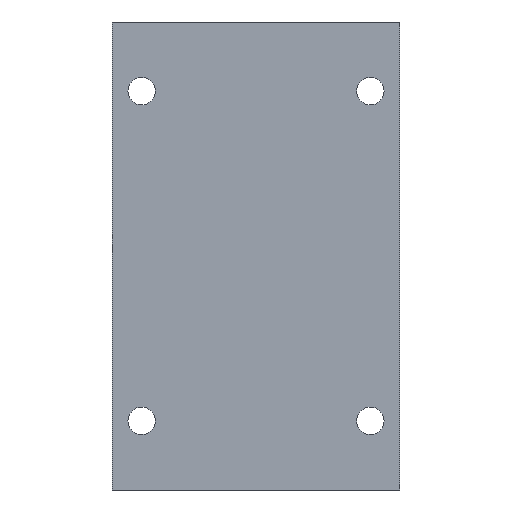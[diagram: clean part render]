
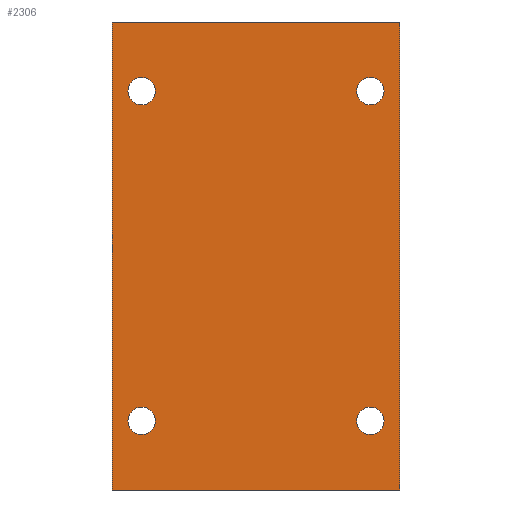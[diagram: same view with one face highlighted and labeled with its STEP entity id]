
A CAD part, front view. The second image highlights one B-rep face of the part: STEP entity #2306.
In plain terms, the highlighted planar face has unit normal (0, -1, 0).
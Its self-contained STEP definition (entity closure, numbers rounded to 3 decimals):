
#15 = VERTEX_POINT ( 'NONE', #2762 ) ;
#20 = LINE ( 'NONE', #2784, #3115 ) ;
#23 = AXIS2_PLACEMENT_3D ( 'NONE', #378, #608, #1875 ) ;
#39 = ORIENTED_EDGE ( 'NONE', *, *, #1694, .F. ) ;
#42 = VERTEX_POINT ( 'NONE', #2830 ) ;
#95 = CARTESIAN_POINT ( 'NONE',  ( 54., -45., 88. ) ) ;
#110 = VERTEX_POINT ( 'NONE', #2814 ) ;
#145 = CIRCLE ( 'NONE', #1785, 5.15 ) ;
#176 = VERTEX_POINT ( 'NONE', #2665 ) ;
#196 = DIRECTION ( 'NONE',  ( 0., -1., 0. ) ) ;
#227 = DIRECTION ( 'NONE',  ( 0., -1., 0. ) ) ;
#235 = PLANE ( 'NONE',  #1997 ) ;
#274 = EDGE_LOOP ( 'NONE', ( #2835, #2504 ) ) ;
#281 = DIRECTION ( 'NONE',  ( 0., 0., -1. ) ) ;
#289 = EDGE_CURVE ( 'NONE', #3130, #1048, #316, .T. ) ;
#293 = FACE_BOUND ( 'NONE', #962, .T. ) ;
#316 = CIRCLE ( 'NONE', #1591, 5.15 ) ;
#319 = EDGE_CURVE ( 'NONE', #2426, #176, #2195, .T. ) ;
#326 = DIRECTION ( 'NONE',  ( 0., 0., -1. ) ) ;
#356 = CIRCLE ( 'NONE', #2320, 5.15 ) ;
#378 = CARTESIAN_POINT ( 'NONE',  ( 43., -45., 62. ) ) ;
#417 = VECTOR ( 'NONE', #1962, 1000. ) ;
#502 = VERTEX_POINT ( 'NONE', #1069 ) ;
#540 = ORIENTED_EDGE ( 'NONE', *, *, #2673, .T. ) ;
#564 = CIRCLE ( 'NONE', #23, 5.15 ) ;
#576 = CARTESIAN_POINT ( 'NONE',  ( 43., -45., -62. ) ) ;
#608 = DIRECTION ( 'NONE',  ( 0., -1., 0. ) ) ;
#666 = DIRECTION ( 'NONE',  ( 0., 0., -1. ) ) ;
#674 = ORIENTED_EDGE ( 'NONE', *, *, #3265, .F. ) ;
#679 = DIRECTION ( 'NONE',  ( 0., 0., -1. ) ) ;
#697 = DIRECTION ( 'NONE',  ( 0., 0., -1. ) ) ;
#930 = CIRCLE ( 'NONE', #1574, 5.15 ) ;
#939 = CARTESIAN_POINT ( 'NONE',  ( 43., -45., 62. ) ) ;
#962 = EDGE_LOOP ( 'NONE', ( #674, #39 ) ) ;
#977 = CARTESIAN_POINT ( 'NONE',  ( -54., -45., -88. ) ) ;
#989 = ORIENTED_EDGE ( 'NONE', *, *, #1917, .F. ) ;
#990 = DIRECTION ( 'NONE',  ( 0., 1., 0. ) ) ;
#1048 = VERTEX_POINT ( 'NONE', #2296 ) ;
#1069 = CARTESIAN_POINT ( 'NONE',  ( -54., -45., 88. ) ) ;
#1077 = VERTEX_POINT ( 'NONE', #1783 ) ;
#1151 = CIRCLE ( 'NONE', #2210, 5.15 ) ;
#1236 = FACE_OUTER_BOUND ( 'NONE', #1507, .T. ) ;
#1250 = ORIENTED_EDGE ( 'NONE', *, *, #1901, .T. ) ;
#1307 = FACE_BOUND ( 'NONE', #2936, .T. ) ;
#1428 = DIRECTION ( 'NONE',  ( 0., -1., 0. ) ) ;
#1441 = CARTESIAN_POINT ( 'NONE',  ( -43., -45., -62. ) ) ;
#1460 = DIRECTION ( 'NONE',  ( 1., 0., 0. ) ) ;
#1493 = CARTESIAN_POINT ( 'NONE',  ( -54., -45., 88. ) ) ;
#1507 = EDGE_LOOP ( 'NONE', ( #1250, #2984, #2258, #540 ) ) ;
#1548 = DIRECTION ( 'NONE',  ( 0., -1., 0. ) ) ;
#1574 = AXIS2_PLACEMENT_3D ( 'NONE', #576, #2605, #326 ) ;
#1591 = AXIS2_PLACEMENT_3D ( 'NONE', #1441, #1428, #666 ) ;
#1593 = DIRECTION ( 'NONE',  ( 0., -1., 0. ) ) ;
#1610 = CARTESIAN_POINT ( 'NONE',  ( 43., -45., 56.85 ) ) ;
#1620 = CARTESIAN_POINT ( 'NONE',  ( 43., -45., 67.15 ) ) ;
#1634 = CARTESIAN_POINT ( 'NONE',  ( -43., -45., -56.85 ) ) ;
#1639 = EDGE_CURVE ( 'NONE', #15, #110, #1151, .T. ) ;
#1660 = AXIS2_PLACEMENT_3D ( 'NONE', #939, #196, #679 ) ;
#1694 = EDGE_CURVE ( 'NONE', #1077, #3219, #930, .T. ) ;
#1698 = CARTESIAN_POINT ( 'NONE',  ( -43., -45., 62. ) ) ;
#1772 = CARTESIAN_POINT ( 'NONE',  ( 43., -45., -62. ) ) ;
#1783 = CARTESIAN_POINT ( 'NONE',  ( 43., -45., -56.85 ) ) ;
#1785 = AXIS2_PLACEMENT_3D ( 'NONE', #2315, #1548, #281 ) ;
#1791 = DIRECTION ( 'NONE',  ( 0., 0., 1. ) ) ;
#1809 = FACE_BOUND ( 'NONE', #274, .T. ) ;
#1875 = DIRECTION ( 'NONE',  ( 0., 0., -1. ) ) ;
#1901 = EDGE_CURVE ( 'NONE', #42, #176, #3253, .T. ) ;
#1917 = EDGE_CURVE ( 'NONE', #110, #15, #356, .T. ) ;
#1924 = ORIENTED_EDGE ( 'NONE', *, *, #289, .F. ) ;
#1962 = DIRECTION ( 'NONE',  ( 0., 0., -1. ) ) ;
#1972 = EDGE_CURVE ( 'NONE', #1048, #3130, #145, .T. ) ;
#1981 = ORIENTED_EDGE ( 'NONE', *, *, #1972, .F. ) ;
#1997 = AXIS2_PLACEMENT_3D ( 'NONE', #2020, #990, #1791 ) ;
#2007 = DIRECTION ( 'NONE',  ( 0., -1., 0. ) ) ;
#2020 = CARTESIAN_POINT ( 'NONE',  ( -54., -45., 88. ) ) ;
#2187 = AXIS2_PLACEMENT_3D ( 'NONE', #1772, #2007, #2825 ) ;
#2189 = CIRCLE ( 'NONE', #2187, 5.15 ) ;
#2195 = LINE ( 'NONE', #3251, #417 ) ;
#2210 = AXIS2_PLACEMENT_3D ( 'NONE', #2322, #1593, #3116 ) ;
#2258 = ORIENTED_EDGE ( 'NONE', *, *, #2363, .F. ) ;
#2289 = EDGE_LOOP ( 'NONE', ( #989, #2902 ) ) ;
#2296 = CARTESIAN_POINT ( 'NONE',  ( -43., -45., -67.15 ) ) ;
#2306 = ADVANCED_FACE ( 'NONE', ( #293, #1236, #2516, #1307, #1809 ), #235, .F. ) ;
#2315 = CARTESIAN_POINT ( 'NONE',  ( -43., -45., -62. ) ) ;
#2319 = DIRECTION ( 'NONE',  ( 0., 0., -1. ) ) ;
#2320 = AXIS2_PLACEMENT_3D ( 'NONE', #1698, #227, #697 ) ;
#2322 = CARTESIAN_POINT ( 'NONE',  ( -43., -45., 62. ) ) ;
#2363 = EDGE_CURVE ( 'NONE', #502, #2426, #20, .T. ) ;
#2426 = VERTEX_POINT ( 'NONE', #95 ) ;
#2443 = EDGE_CURVE ( 'NONE', #2543, #2833, #564, .T. ) ;
#2504 = ORIENTED_EDGE ( 'NONE', *, *, #3176, .F. ) ;
#2516 = FACE_BOUND ( 'NONE', #2289, .T. ) ;
#2543 = VERTEX_POINT ( 'NONE', #1610 ) ;
#2548 = LINE ( 'NONE', #1493, #2943 ) ;
#2605 = DIRECTION ( 'NONE',  ( 0., -1., 0. ) ) ;
#2665 = CARTESIAN_POINT ( 'NONE',  ( 54., -45., -88. ) ) ;
#2666 = CIRCLE ( 'NONE', #1660, 5.15 ) ;
#2673 = EDGE_CURVE ( 'NONE', #502, #42, #2548, .T. ) ;
#2697 = CARTESIAN_POINT ( 'NONE',  ( 43., -45., -67.15 ) ) ;
#2762 = CARTESIAN_POINT ( 'NONE',  ( -43., -45., 67.15 ) ) ;
#2784 = CARTESIAN_POINT ( 'NONE',  ( -54., -45., 88. ) ) ;
#2814 = CARTESIAN_POINT ( 'NONE',  ( -43., -45., 56.85 ) ) ;
#2825 = DIRECTION ( 'NONE',  ( 0., 0., -1. ) ) ;
#2830 = CARTESIAN_POINT ( 'NONE',  ( -54., -45., -88. ) ) ;
#2833 = VERTEX_POINT ( 'NONE', #1620 ) ;
#2835 = ORIENTED_EDGE ( 'NONE', *, *, #2443, .F. ) ;
#2902 = ORIENTED_EDGE ( 'NONE', *, *, #1639, .F. ) ;
#2936 = EDGE_LOOP ( 'NONE', ( #1981, #1924 ) ) ;
#2943 = VECTOR ( 'NONE', #2319, 1000. ) ;
#2984 = ORIENTED_EDGE ( 'NONE', *, *, #319, .F. ) ;
#2998 = VECTOR ( 'NONE', #1460, 1000. ) ;
#3027 = DIRECTION ( 'NONE',  ( 1., 0., 0. ) ) ;
#3115 = VECTOR ( 'NONE', #3027, 1000. ) ;
#3116 = DIRECTION ( 'NONE',  ( 0., 0., -1. ) ) ;
#3130 = VERTEX_POINT ( 'NONE', #1634 ) ;
#3176 = EDGE_CURVE ( 'NONE', #2833, #2543, #2666, .T. ) ;
#3219 = VERTEX_POINT ( 'NONE', #2697 ) ;
#3251 = CARTESIAN_POINT ( 'NONE',  ( 54., -45., 88. ) ) ;
#3253 = LINE ( 'NONE', #977, #2998 ) ;
#3265 = EDGE_CURVE ( 'NONE', #3219, #1077, #2189, .T. ) ;
